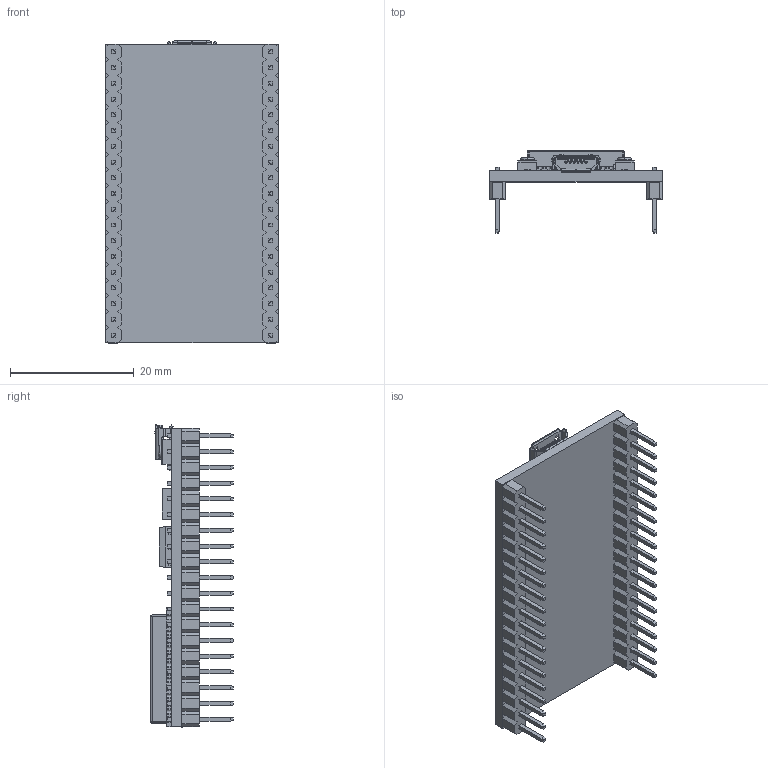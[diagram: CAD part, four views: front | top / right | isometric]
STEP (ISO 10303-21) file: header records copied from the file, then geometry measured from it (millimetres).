
FILE_DESCRIPTION (( 'STEP AP214' ), '1' );
FILE_NAME ('ESP32-DEVKITC-32U.STEP', '2024-04-22T20:01:41', ( '' ), ( '' ), 'SwSTEP 2.0', 'SolidWorks 2021', '' );
FILE_SCHEMA (( 'AUTOMOTIVE_DESIGN' ));
Length unit declared in the file: millimetre
Products named in the file (1): ESP32-DEVKITC-32U
Bounding box: 27.9 x 13.35 x 48.75 mm (x, y, z)
Volume: 3548.8 mm3; surface area: 8585.8 mm2
Topology: 168 solids, 168 shells, 2742 faces, 6856 edges, 4480 vertices
Faces by surface type: plane 2272, cylinder 437, cone 20, torus 11, bspline 2
Entity records: 82484 total; most frequent: CARTESIAN_POINT 14240, ORIENTED_EDGE 13708, DIRECTION 13205, EDGE_CURVE 6854, VECTOR 5915, LINE 5915, VERTEX_POINT 4480, AXIS2_PLACEMENT_3D 3645
